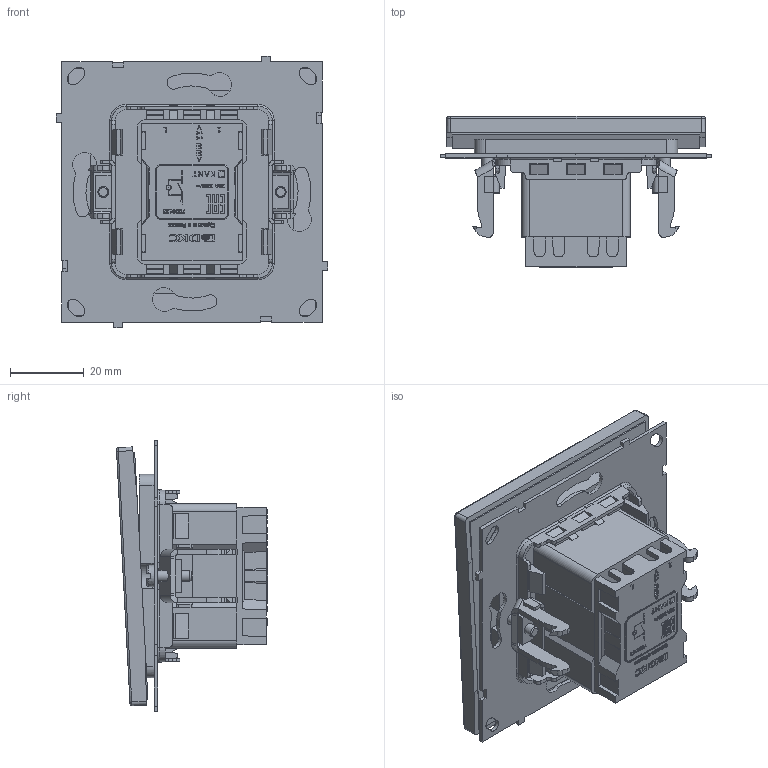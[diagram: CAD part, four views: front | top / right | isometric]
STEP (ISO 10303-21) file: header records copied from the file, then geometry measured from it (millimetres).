
FILE_DESCRIPTION (( 'STEP AP203' ), '1' );
FILE_NAME ('7000133.STEP', '2025-10-24T07:55:52', ( '' ), ( '' ), 'SwSTEP 2.0', 'SolidWorks 2022', '' );
FILE_SCHEMA (( 'CONFIG_CONTROL_DESIGN' ));
Products named in the file (1): 7000133
Bounding box: 73.5 x 40.88 x 73.5 mm (x, y, z)
Volume: 69647 mm3; surface area: 28657.4 mm2
Topology: 3 solids, 4 shells, 1652 faces, 4586 edges, 3002 vertices
Faces by surface type: plane 1058, bspline 332, cylinder 228, torus 22, cone 12
Full cylindrical faces by diameter (mm): 3 x4, 3.3 x2
Entity records: 64105 total; most frequent: CARTESIAN_POINT 23727, ORIENTED_EDGE 9132, DIRECTION 6982, EDGE_CURVE 4566, LINE 3336, VECTOR 3336, VERTEX_POINT 2994, AXIS2_PLACEMENT_3D 1823
